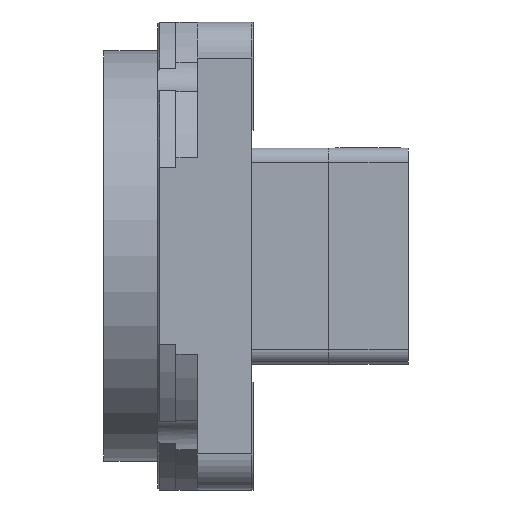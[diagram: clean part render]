
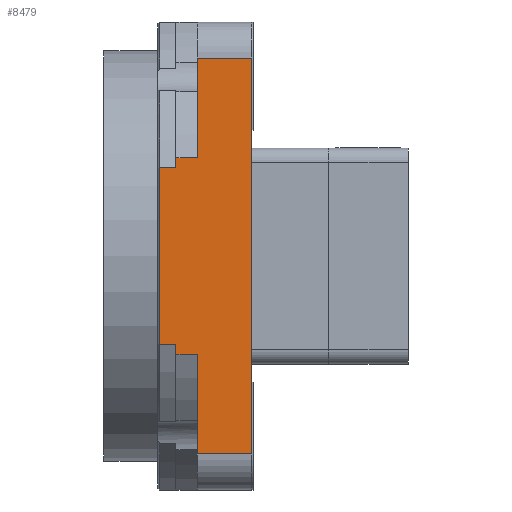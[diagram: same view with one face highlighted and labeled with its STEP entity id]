
A CAD part, left-side view. The second image highlights one B-rep face of the part: STEP entity #8479.
In plain terms, the highlighted planar face has unit normal (-1, 0, 0).
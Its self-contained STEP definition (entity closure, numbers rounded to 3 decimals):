
#706 = DIRECTION ( 'NONE',  ( 0., 0., -1. ) ) ;
#730 = CARTESIAN_POINT ( 'NONE',  ( -65., 0., -14.755 ) ) ;
#756 = CARTESIAN_POINT ( 'NONE',  ( -65., 15., 27.299 ) ) ;
#770 = DIRECTION ( 'NONE',  ( 0., -1., 0. ) ) ;
#1304 = PLANE ( 'NONE',  #16126 ) ;
#1344 = CARTESIAN_POINT ( 'NONE',  ( -65., 15., -55. ) ) ;
#1384 = DIRECTION ( 'NONE',  ( 0., 0., -1. ) ) ;
#1385 = DIRECTION ( 'NONE',  ( 1., 0., 0. ) ) ;
#2445 = ORIENTED_EDGE ( 'NONE', *, *, #3656, .F. ) ;
#2452 = ORIENTED_EDGE ( 'NONE', *, *, #3581, .F. ) ;
#2456 = ORIENTED_EDGE ( 'NONE', *, *, #3642, .F. ) ;
#2459 = ORIENTED_EDGE ( 'NONE', *, *, #3733, .F. ) ;
#2463 = ORIENTED_EDGE ( 'NONE', *, *, #3672, .F. ) ;
#2465 = ORIENTED_EDGE ( 'NONE', *, *, #3697, .F. ) ;
#2472 = ORIENTED_EDGE ( 'NONE', *, *, #3693, .F. ) ;
#2473 = ORIENTED_EDGE ( 'NONE', *, *, #3627, .F. ) ;
#2480 = ORIENTED_EDGE ( 'NONE', *, *, #3629, .F. ) ;
#2485 = ORIENTED_EDGE ( 'NONE', *, *, #3617, .F. ) ;
#2487 = ORIENTED_EDGE ( 'NONE', *, *, #3715, .F. ) ;
#2499 = ORIENTED_EDGE ( 'NONE', *, *, #3644, .F. ) ;
#2846 = EDGE_LOOP ( 'NONE', ( #2472, #2456, #2459, #2485, #2445, #2473, #2499, #2463, #2452, #2465, #2480, #2487 ) ) ;
#3581 = EDGE_CURVE ( 'NONE', #19978, #19979, #18152, .T. ) ;
#3617 = EDGE_CURVE ( 'NONE', #20077, #20087, #18200, .T. ) ;
#3627 = EDGE_CURVE ( 'NONE', #19995, #19986, #18179, .T. ) ;
#3629 = EDGE_CURVE ( 'NONE', #19791, #19773, #18218, .T. ) ;
#3642 = EDGE_CURVE ( 'NONE', #20062, #19819, #18256, .T. ) ;
#3644 = EDGE_CURVE ( 'NONE', #20053, #19995, #18223, .T. ) ;
#3656 = EDGE_CURVE ( 'NONE', #19986, #20077, #18236, .T. ) ;
#3672 = EDGE_CURVE ( 'NONE', #19979, #20053, #18297, .T. ) ;
#3693 = EDGE_CURVE ( 'NONE', #19819, #19770, #18299, .T. ) ;
#3697 = EDGE_CURVE ( 'NONE', #19773, #19978, #18306, .T. ) ;
#3715 = EDGE_CURVE ( 'NONE', #19770, #19791, #18075, .T. ) ;
#3733 = EDGE_CURVE ( 'NONE', #20087, #20062, #18097, .T. ) ;
#8479 = ADVANCED_FACE ( 'NONE', ( #11628 ), #1304, .F. ) ;
#10682 = CARTESIAN_POINT ( 'NONE',  ( -65., 21., 24.602 ) ) ;
#10986 = CARTESIAN_POINT ( 'NONE',  ( -65., 0., 55. ) ) ;
#10998 = CARTESIAN_POINT ( 'NONE',  ( -65., 15., -55. ) ) ;
#11037 = CARTESIAN_POINT ( 'NONE',  ( -65., 0., -55. ) ) ;
#11075 = CARTESIAN_POINT ( 'NONE',  ( -65., 15., 55. ) ) ;
#11148 = CARTESIAN_POINT ( 'NONE',  ( -65., 15., -27.299 ) ) ;
#11152 = CARTESIAN_POINT ( 'NONE',  ( -65., 21., -27.299 ) ) ;
#11222 = CARTESIAN_POINT ( 'NONE',  ( -65., 25.5, 24.602 ) ) ;
#11223 = CARTESIAN_POINT ( 'NONE',  ( -65., 25.5, -24.602 ) ) ;
#11272 = CARTESIAN_POINT ( 'NONE',  ( -65., 21., -24.602 ) ) ;
#11285 = CARTESIAN_POINT ( 'NONE',  ( -65., 15., 27.299 ) ) ;
#11628 = FACE_OUTER_BOUND ( 'NONE', #2846, .T. ) ;
#12615 = DIRECTION ( 'NONE',  ( 0., 0., 1. ) ) ;
#12621 = CARTESIAN_POINT ( 'NONE',  ( -65., 21., -55. ) ) ;
#12648 = CARTESIAN_POINT ( 'NONE',  ( -65., 15., -55. ) ) ;
#12665 = CARTESIAN_POINT ( 'NONE',  ( -65., 15., 55. ) ) ;
#12667 = DIRECTION ( 'NONE',  ( 0., -1., 0. ) ) ;
#12962 = DIRECTION ( 'NONE',  ( 0., 0., 1. ) ) ;
#13560 = CARTESIAN_POINT ( 'NONE',  ( -65., 15., -27.299 ) ) ;
#13599 = DIRECTION ( 'NONE',  ( 0., 1., 0. ) ) ;
#13664 = CARTESIAN_POINT ( 'NONE',  ( -65., 21., -55. ) ) ;
#13694 = DIRECTION ( 'NONE',  ( 0., 0., 1. ) ) ;
#13714 = CARTESIAN_POINT ( 'NONE',  ( -65., 25.5, -55. ) ) ;
#13721 = CARTESIAN_POINT ( 'NONE',  ( -65., 15., -55. ) ) ;
#13728 = DIRECTION ( 'NONE',  ( 0., 0., 1. ) ) ;
#13733 = CARTESIAN_POINT ( 'NONE',  ( -65., 15., -55. ) ) ;
#13739 = DIRECTION ( 'NONE',  ( 0., 1., 0. ) ) ;
#13753 = CARTESIAN_POINT ( 'NONE',  ( -65., 15., -24.602 ) ) ;
#13765 = CARTESIAN_POINT ( 'NONE',  ( -65., 15., 24.602 ) ) ;
#13766 = DIRECTION ( 'NONE',  ( 0., 1., 0. ) ) ;
#13768 = DIRECTION ( 'NONE',  ( 0., -1., 0. ) ) ;
#13773 = DIRECTION ( 'NONE',  ( 0., 0., 1. ) ) ;
#16126 = AXIS2_PLACEMENT_3D ( 'NONE', #1344, #1385, #1384 ) ;
#18060 = VECTOR ( 'NONE', #12962, 1000. ) ;
#18075 = LINE ( 'NONE', #730, #18081 ) ;
#18081 = VECTOR ( 'NONE', #706, 1000. ) ;
#18097 = LINE ( 'NONE', #756, #18133 ) ;
#18133 = VECTOR ( 'NONE', #770, 1000. ) ;
#18152 = LINE ( 'NONE', #13560, #18153 ) ;
#18153 = VECTOR ( 'NONE', #13599, 1000. ) ;
#18179 = LINE ( 'NONE', #13714, #18202 ) ;
#18190 = VECTOR ( 'NONE', #13739, 1000. ) ;
#18200 = LINE ( 'NONE', #13664, #18216 ) ;
#18202 = VECTOR ( 'NONE', #13728, 1000. ) ;
#18216 = VECTOR ( 'NONE', #13694, 1000. ) ;
#18218 = LINE ( 'NONE', #13733, #18190 ) ;
#18223 = LINE ( 'NONE', #13753, #18249 ) ;
#18228 = VECTOR ( 'NONE', #13768, 1000. ) ;
#18236 = LINE ( 'NONE', #13765, #18228 ) ;
#18249 = VECTOR ( 'NONE', #13766, 1000. ) ;
#18256 = LINE ( 'NONE', #13721, #18264 ) ;
#18264 = VECTOR ( 'NONE', #13773, 1000. ) ;
#18276 = VECTOR ( 'NONE', #12667, 1000. ) ;
#18287 = VECTOR ( 'NONE', #12615, 1000. ) ;
#18297 = LINE ( 'NONE', #12621, #18287 ) ;
#18299 = LINE ( 'NONE', #12665, #18276 ) ;
#18306 = LINE ( 'NONE', #12648, #18060 ) ;
#18528 = CARTESIAN_POINT ( 'NONE',  ( -65., 21., 27.299 ) ) ;
#19770 = VERTEX_POINT ( 'NONE', #10986 ) ;
#19773 = VERTEX_POINT ( 'NONE', #10998 ) ;
#19791 = VERTEX_POINT ( 'NONE', #11037 ) ;
#19819 = VERTEX_POINT ( 'NONE', #11075 ) ;
#19978 = VERTEX_POINT ( 'NONE', #11148 ) ;
#19979 = VERTEX_POINT ( 'NONE', #11152 ) ;
#19986 = VERTEX_POINT ( 'NONE', #11222 ) ;
#19995 = VERTEX_POINT ( 'NONE', #11223 ) ;
#20053 = VERTEX_POINT ( 'NONE', #11272 ) ;
#20062 = VERTEX_POINT ( 'NONE', #11285 ) ;
#20077 = VERTEX_POINT ( 'NONE', #10682 ) ;
#20087 = VERTEX_POINT ( 'NONE', #18528 ) ;
